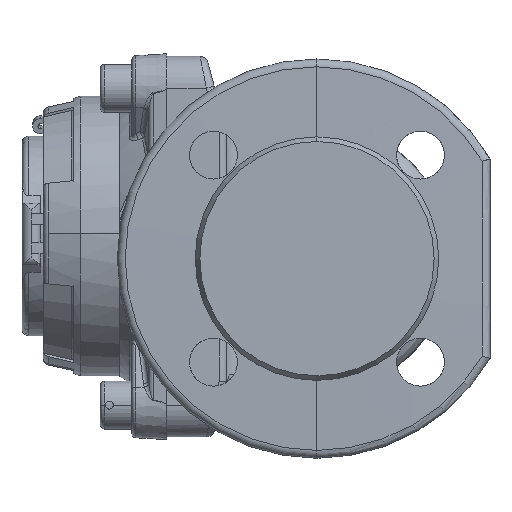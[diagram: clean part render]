
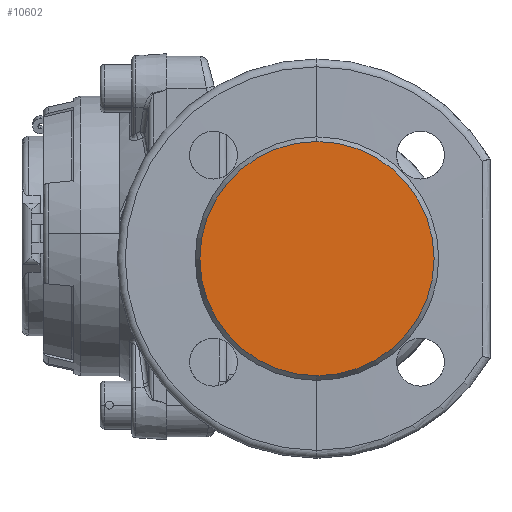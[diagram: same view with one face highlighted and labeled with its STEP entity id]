
A CAD part, left-side view. The second image highlights one B-rep face of the part: STEP entity #10602.
In plain terms, the highlighted planar face has unit normal (-1, 0, 0).
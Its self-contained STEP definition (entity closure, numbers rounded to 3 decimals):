
#5670 = AXIS2_PLACEMENT_3D ( 'NONE', #39027, #16141, #50639 ) ;
#6437 = DIRECTION ( 'NONE',  ( 0., 0., 1. ) ) ;
#10602 = ADVANCED_FACE ( 'NONE', ( #36849 ), #31174, .F. ) ;
#11603 = EDGE_LOOP ( 'NONE', ( #24649, #26205 ) ) ;
#13560 = DIRECTION ( 'NONE',  ( -1., 0., 0. ) ) ;
#16141 = DIRECTION ( 'NONE',  ( 1., 0., 0. ) ) ;
#17870 = EDGE_CURVE ( 'NONE', #55442, #55804, #28492, .T. ) ;
#18354 = DIRECTION ( 'NONE',  ( -1., 0., 0. ) ) ;
#18907 = CIRCLE ( 'NONE', #60815, 44. ) ;
#24649 = ORIENTED_EDGE ( 'NONE', *, *, #45356, .T. ) ;
#26205 = ORIENTED_EDGE ( 'NONE', *, *, #17870, .T. ) ;
#28492 = CIRCLE ( 'NONE', #57230, 44. ) ;
#31174 = PLANE ( 'NONE',  #5670 ) ;
#36849 = FACE_OUTER_BOUND ( 'NONE', #11603, .T. ) ;
#39027 = CARTESIAN_POINT ( 'NONE',  ( -100., 0., 0. ) ) ;
#41598 = DIRECTION ( 'NONE',  ( 0., 0., 1. ) ) ;
#45356 = EDGE_CURVE ( 'NONE', #55804, #55442, #18907, .T. ) ;
#47335 = CARTESIAN_POINT ( 'NONE',  ( -100., 0., 0. ) ) ;
#49590 = CARTESIAN_POINT ( 'NONE',  ( -100., 0., -44. ) ) ;
#50639 = DIRECTION ( 'NONE',  ( 0., 0., 1. ) ) ;
#54279 = CARTESIAN_POINT ( 'NONE',  ( -100., 0., 44. ) ) ;
#55442 = VERTEX_POINT ( 'NONE', #49590 ) ;
#55804 = VERTEX_POINT ( 'NONE', #54279 ) ;
#57230 = AXIS2_PLACEMENT_3D ( 'NONE', #47335, #13560, #6437 ) ;
#60815 = AXIS2_PLACEMENT_3D ( 'NONE', #74309, #18354, #41598 ) ;
#74309 = CARTESIAN_POINT ( 'NONE',  ( -100., 0., 0. ) ) ;
